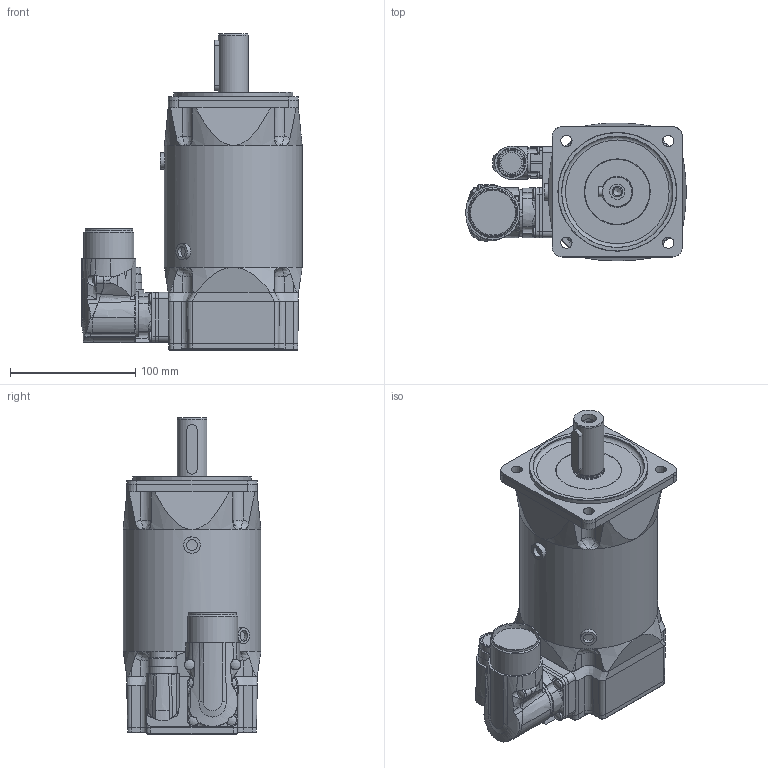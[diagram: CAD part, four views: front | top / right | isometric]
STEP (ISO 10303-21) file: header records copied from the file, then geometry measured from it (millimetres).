
FILE_DESCRIPTION(/* description */ (''),/* implementation_level */ '2;1');
FILE_NAME(/* name */ 'AM8353-xQT00.stp',/* time_stamp */ '2024-11-06T19:49:40+01:00',/* author */ ('MartinMue'),/* organization */ (''),/* preprocessor_version */ 'ST-DEVELOPER v20',/* originating_system */ 'Autodesk Inventor 2024',/* authorisation */ '');
FILE_SCHEMA (('AUTOMOTIVE_DESIGN { 1 0 10303 214 3 1 1 }'));
Length unit declared in the file: millimetre
Products named in the file (8): 5000000380; 5000000380_1; DIN 6885-A8x7x40; Intercontec-H86E502NN 00000100000_VM; Intercontec-H86E502NN 00000100000_VM_1; BM100AD000010; Intercontec-B_ED_A_091_NN_00_00_1116_000.ipt_VM2_Sockel; Intercontec-B_ED_A_091_NN_00_00_1115_000.ipt_VM2_ohne_Sockel
Assembly tree (7 placements, depth 2):
  5000000380
    5000000380_1
    DIN 6885-A8x7x40
    Intercontec-H86E502NN 00000100000_VM
    Intercontec-H86E502NN 00000100000_VM_1
    BM100AD000010
    Intercontec-B_ED_A_091_NN_00_00_1116_000.ipt_VM2_Sockel
    Intercontec-B_ED_A_091_NN_00_00_1115_000.ipt_VM2_ohne_Sockel
Bounding box: 175.98 x 110 x 252.51 mm (x, y, z)
Volume: 2159580.7 mm3; surface area: 143843.5 mm2
Topology: 7 solids, 7 shells, 678 faces, 1809 edges, 1169 vertices
Faces by surface type: plane 307, cylinder 134, cone 110, bspline 95, torus 22, sphere 10
Full cylindrical faces by diameter (mm): 4.8 x4, 6.647 x1, 8 x2, 8.4 x1, 8.566 x2, 13 x2, 16.8 x1, 20 x1, 21.6 x1, 22 x1, 23 x1, 23.1 x1, 23.4 x1, 24 x1, 25 x1, 25.5 x1, 32 x1, 40 x1, 52 x1, 95 x1, 110 x1
Entity records: 29162 total; most frequent: CARTESIAN_POINT 11827, ORIENTED_EDGE 3586, DIRECTION 3159, EDGE_CURVE 1793, VERTEX_POINT 1171, AXIS2_PLACEMENT_3D 1161, LINE 837, VECTOR 837
